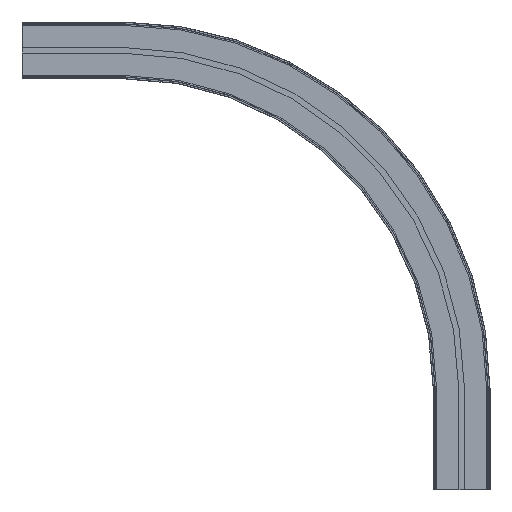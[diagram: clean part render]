
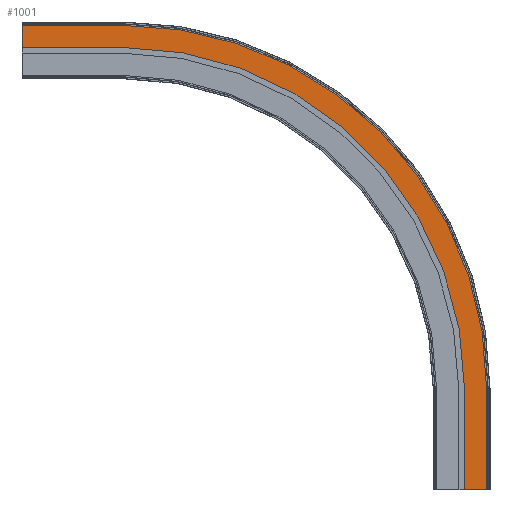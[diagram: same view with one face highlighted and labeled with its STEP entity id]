
A CAD part, left-side view. The second image highlights one B-rep face of the part: STEP entity #1001.
In plain terms, the highlighted planar face has unit normal (-1, 0, 0).
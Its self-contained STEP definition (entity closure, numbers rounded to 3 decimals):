
#19 = CIRCLE ( 'NONE', #527, 504.25 ) ;
#60 = ORIENTED_EDGE ( 'NONE', *, *, #1643, .T. ) ;
#70 = AXIS2_PLACEMENT_3D ( 'NONE', #2085, #625, #868 ) ;
#141 = ORIENTED_EDGE ( 'NONE', *, *, #1922, .F. ) ;
#150 = LINE ( 'NONE', #2912, #912 ) ;
#154 = VECTOR ( 'NONE', #2598, 1000. ) ;
#182 = ORIENTED_EDGE ( 'NONE', *, *, #991, .F. ) ;
#186 = VERTEX_POINT ( 'NONE', #198 ) ;
#198 = CARTESIAN_POINT ( 'NONE',  ( -32.5, 650., 687. ) ) ;
#200 = CARTESIAN_POINT ( 'NONE',  ( -32.5, -4.25, 150. ) ) ;
#202 = LINE ( 'NONE', #3110, #957 ) ;
#221 = EDGE_LOOP ( 'NONE', ( #182, #470, #2748, #2694, #1820, #2403, #141, #60 ) ) ;
#226 = DIRECTION ( 'NONE',  ( -1., 0., 0. ) ) ;
#235 = CARTESIAN_POINT ( 'NONE',  ( -32.5, -37., 150. ) ) ;
#315 = VERTEX_POINT ( 'NONE', #235 ) ;
#369 = DIRECTION ( 'NONE',  ( 0., 0., -1. ) ) ;
#470 = ORIENTED_EDGE ( 'NONE', *, *, #2558, .F. ) ;
#478 = CARTESIAN_POINT ( 'NONE',  ( -32.5, -4.25, 0. ) ) ;
#512 = VERTEX_POINT ( 'NONE', #200 ) ;
#527 = AXIS2_PLACEMENT_3D ( 'NONE', #2176, #226, #2868 ) ;
#552 = VERTEX_POINT ( 'NONE', #705 ) ;
#564 = LINE ( 'NONE', #1370, #3134 ) ;
#625 = DIRECTION ( 'NONE',  ( -1., 0., 0. ) ) ;
#694 = CIRCLE ( 'NONE', #70, 537. ) ;
#705 = CARTESIAN_POINT ( 'NONE',  ( -32.5, 650., 654.25 ) ) ;
#789 = LINE ( 'NONE', #2138, #154 ) ;
#868 = DIRECTION ( 'NONE',  ( 0., 0., 1. ) ) ;
#900 = DIRECTION ( 'NONE',  ( -1., 0., 0. ) ) ;
#912 = VECTOR ( 'NONE', #2657, 1000. ) ;
#956 = EDGE_CURVE ( 'NONE', #315, #1365, #694, .T. ) ;
#957 = VECTOR ( 'NONE', #1397, 1000. ) ;
#991 = EDGE_CURVE ( 'NONE', #1931, #1690, #789, .T. ) ;
#1001 = ADVANCED_FACE ( 'NONE', ( #2670 ), #1678, .T. ) ;
#1187 = DIRECTION ( 'NONE',  ( 0., -1., 0. ) ) ;
#1365 = VERTEX_POINT ( 'NONE', #2987 ) ;
#1370 = CARTESIAN_POINT ( 'NONE',  ( -32.5, 500., 654.25 ) ) ;
#1385 = AXIS2_PLACEMENT_3D ( 'NONE', #2381, #900, #1187 ) ;
#1397 = DIRECTION ( 'NONE',  ( 0., 1., 0. ) ) ;
#1555 = VERTEX_POINT ( 'NONE', #2160 ) ;
#1643 = EDGE_CURVE ( 'NONE', #512, #1690, #150, .T. ) ;
#1678 = PLANE ( 'NONE',  #1385 ) ;
#1690 = VERTEX_POINT ( 'NONE', #478 ) ;
#1697 = CARTESIAN_POINT ( 'NONE',  ( -32.5, -37., 0. ) ) ;
#1820 = ORIENTED_EDGE ( 'NONE', *, *, #1941, .T. ) ;
#1922 = EDGE_CURVE ( 'NONE', #512, #1555, #19, .T. ) ;
#1931 = VERTEX_POINT ( 'NONE', #1697 ) ;
#1941 = EDGE_CURVE ( 'NONE', #186, #552, #2418, .T. ) ;
#2022 = VECTOR ( 'NONE', #369, 1000. ) ;
#2068 = DIRECTION ( 'NONE',  ( 0., 1., 0. ) ) ;
#2085 = CARTESIAN_POINT ( 'NONE',  ( -32.5, 500., 150. ) ) ;
#2138 = CARTESIAN_POINT ( 'NONE',  ( -32.5, -37., 0. ) ) ;
#2160 = CARTESIAN_POINT ( 'NONE',  ( -32.5, 500., 654.25 ) ) ;
#2176 = CARTESIAN_POINT ( 'NONE',  ( -32.5, 500., 150. ) ) ;
#2186 = DIRECTION ( 'NONE',  ( 0., 0., -1. ) ) ;
#2332 = CARTESIAN_POINT ( 'NONE',  ( -32.5, -37., 150. ) ) ;
#2381 = CARTESIAN_POINT ( 'NONE',  ( -32.5, -37., 150. ) ) ;
#2403 = ORIENTED_EDGE ( 'NONE', *, *, #2952, .F. ) ;
#2418 = LINE ( 'NONE', #3119, #2956 ) ;
#2558 = EDGE_CURVE ( 'NONE', #315, #1931, #2675, .T. ) ;
#2598 = DIRECTION ( 'NONE',  ( 0., 1., 0. ) ) ;
#2657 = DIRECTION ( 'NONE',  ( 0., 0., -1. ) ) ;
#2670 = FACE_OUTER_BOUND ( 'NONE', #221, .T. ) ;
#2675 = LINE ( 'NONE', #2332, #2022 ) ;
#2694 = ORIENTED_EDGE ( 'NONE', *, *, #2738, .T. ) ;
#2738 = EDGE_CURVE ( 'NONE', #1365, #186, #202, .T. ) ;
#2748 = ORIENTED_EDGE ( 'NONE', *, *, #956, .T. ) ;
#2868 = DIRECTION ( 'NONE',  ( 0., 0., 1. ) ) ;
#2912 = CARTESIAN_POINT ( 'NONE',  ( -32.5, -4.25, 150. ) ) ;
#2952 = EDGE_CURVE ( 'NONE', #1555, #552, #564, .T. ) ;
#2956 = VECTOR ( 'NONE', #2186, 1000. ) ;
#2987 = CARTESIAN_POINT ( 'NONE',  ( -32.5, 500., 687. ) ) ;
#3110 = CARTESIAN_POINT ( 'NONE',  ( -32.5, 500., 687. ) ) ;
#3119 = CARTESIAN_POINT ( 'NONE',  ( -32.5, 650., 687. ) ) ;
#3134 = VECTOR ( 'NONE', #2068, 1000. ) ;
